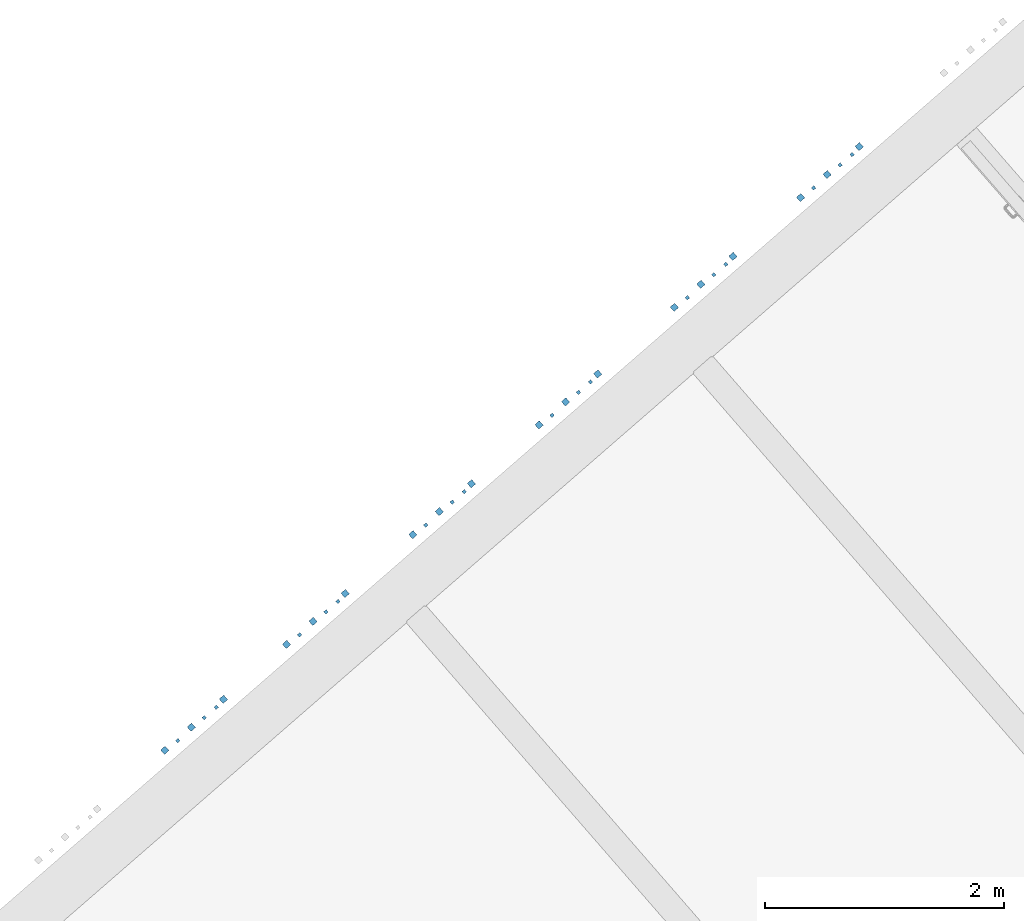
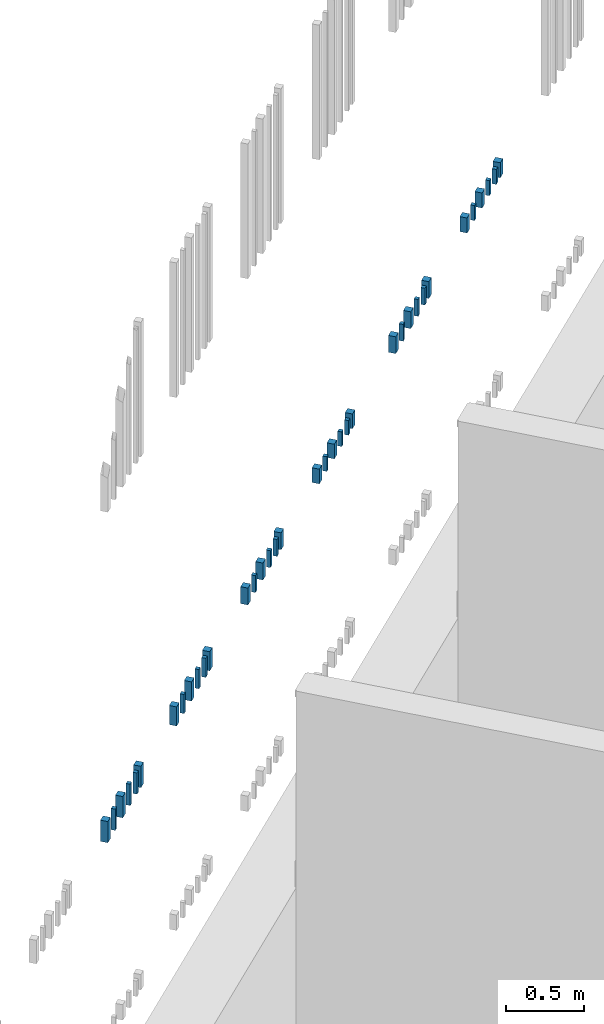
# One storey, part 95 of 124: 36 walls.
"""IFC2X3 building model written with IfcOpenShell, lengths in millimetres."""

from ifc_helpers import new_model, entity, si_unit, converted_unit, derived_unit, money_unit, direction, frame, origin_with_axes, place, context, subcontext, project, spatial, faceted_brep, material, type_object, element, save


model = new_model("IFC2X3")

# Units and contexts
model_context = context("Model", 3, precision=1e-05, world=origin_with_axes(), true_north=direction((0.0, 1.0)))
body_context = subcontext(model_context, "Body", "Model", "MODEL_VIEW")
ifc_project = project(units=[si_unit("LENGTHUNIT", "METRE", prefix="MILLI"), si_unit("AREAUNIT", "SQUARE_METRE"), si_unit("VOLUMEUNIT", "CUBIC_METRE"), converted_unit("PLANEANGLEUNIT", "DEGREE", entity("IfcPlaneAngleMeasure", 0.0174532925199), si_unit("PLANEANGLEUNIT", "RADIAN"), dimensions=[0, 0, 0, 0, 0, 0, 0]), si_unit("SOLIDANGLEUNIT", "STERADIAN"), money_unit("EUR"), converted_unit("TIMEUNIT", "Year", entity("IfcTimeMeasure", 31556926.0), si_unit("TIMEUNIT", "SECOND"), dimensions=[0, 0, 1, 0, 0, 0, 0]), si_unit("MASSUNIT", "GRAM", prefix="KILO"), si_unit("THERMODYNAMICTEMPERATUREUNIT", "DEGREE_CELSIUS"), si_unit("LUMINOUSINTENSITYUNIT", "LUMEN"), si_unit("ENERGYUNIT", "JOULE", prefix="MEGA"), derived_unit("THERMALCONDUCTANCEUNIT", [(si_unit("POWERUNIT", "WATT"), 1), (si_unit("LENGTHUNIT", "METRE"), -1), (si_unit("THERMODYNAMICTEMPERATUREUNIT", "KELVIN"), -1)]), derived_unit("SPECIFICHEATCAPACITYUNIT", [(si_unit("ENERGYUNIT", "JOULE"), 1), (si_unit("MASSUNIT", "GRAM", prefix="KILO"), -1), (si_unit("THERMODYNAMICTEMPERATUREUNIT", "KELVIN"), -1)]), derived_unit("MASSDENSITYUNIT", [(si_unit("MASSUNIT", "GRAM", prefix="KILO"), 1), (si_unit("VOLUMEUNIT", "CUBIC_METRE"), -1)])], contexts=[model_context])

# Site, building, storey
site_placement = place(None, origin_with_axes())
site = spatial("IfcSite", under=ifc_project, at=site_placement, Name="Site", CompositionType="ELEMENT")
building_placement = place(site_placement, origin_with_axes())
building = spatial("IfcBuilding", under=site, at=building_placement, Name="Building", CompositionType="ELEMENT")
storey_placement = place(building_placement, frame((0.0, 0.0, -1615.0), z_axis=(0.0, 0.0, 1.0), x_axis=(1.0, 0.0, 0.0)))
storey = spatial("IfcBuildingStorey", under=building, at=storey_placement, Name="0  korrus", CompositionType="ELEMENT", Elevation=-1615.0)

# Walls
ifc_material = material(Name="Site specified")
wall_type = type_object("IfcWallType", Name="Puitfassaadi ribistik", PredefinedType="NOTDEFINED")
for number, where, z_axis, x_axis, name in (
    (1, (146205.465437, 97130.887889, 3193.00824303), (0.0, 0.0, 1.0), (0.754709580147, 0.656059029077, 0.0), "Site specified"),
    (2, (145936.784575, 96897.3271788, 3193.00824303), (0.0, 0.0, 1.0), (0.754709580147, 0.656059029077, 0.0), "Site specified"),
):
    element("IfcWall", number, at=place(storey_placement, frame(where, z_axis=z_axis, x_axis=x_axis)), inside=storey, type_object=wall_type, material=ifc_material, Name=name, context=body_context, shape_type="Brep", body=[
        faceted_brep([(25.0, 25.0, 165.99175697), (25.0, 25.0, 0.0), (-25.0, 25.0, 0.0), (-25.0, 25.0, 165.99175697), (25.0, -25.0, 165.99175697), (25.0, -25.0, 0.0), (-25.0, -25.0, 0.0), (-25.0, -25.0, 165.99175697)], [[[0, 1, 2, 3]], [[4, 5, 1, 0]], [[2, 1, 5, 6]], [[3, 2, 6, 7]], [[4, 0, 3, 7]], [[7, 6, 5, 4]]]),
    ])
for number, where, z_axis, x_axis, name in (
    (3, (145824.004282, 96784.7136232, 3193.00824303), (0.0, 0.0, 1.0), (0.754709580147, 0.656059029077, 0.0), "Site specified"),
    (4, (146145.510541, 97064.19475, 3193.00824303), (0.0, 0.0, 1.0), (0.754709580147, 0.656059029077, 0.0), "Site specified"),
    (5, (146045.134168, 96976.9388997, 3193.00824303), (0.0, 0.0, 1.0), (0.754709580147, 0.656059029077, 0.0), "Site specified"),
):
    element("IfcWall", number, at=place(storey_placement, frame(where, z_axis=z_axis, x_axis=x_axis)), inside=storey, type_object=wall_type, material=ifc_material, Name=name, context=body_context, shape_type="Brep", body=[
        faceted_brep([(14.0, 14.0, 165.99175697), (14.0, 14.0, 0.0), (-14.0, 14.0, 0.0), (-14.0, 14.0, 165.99175697), (14.0, -14.0, 165.99175697), (14.0, -14.0, 0.0), (-14.0, -14.0, 0.0), (-14.0, -14.0, 165.99175697)], [[[0, 1, 2, 3]], [[4, 5, 1, 0]], [[2, 1, 5, 6]], [[3, 2, 6, 7]], [[4, 0, 3, 7]], [[7, 6, 5, 4]]]),
    ])
wall_1_placement = place(storey_placement, frame((145714.89996, 96704.4458257, 3193.00824303), z_axis=(0.0, 0.0, 1.0), x_axis=(0.754709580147, 0.656059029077, 0.0)))
element("IfcWall", 6, at=wall_1_placement, inside=storey, type_object=wall_type, material=ifc_material, Name="Site specified", context=body_context, shape_type="Brep", body=[
    faceted_brep([(25.0, 25.0, 165.99175697), (25.0, 25.0, 0.0), (-25.0, 25.0, 0.0), (-25.0, 25.0, 165.99175697), (25.0, -25.0, 165.99175697), (25.0, -25.0, 0.0), (-25.0, -25.0, 0.0), (-25.0, -25.0, 165.99175697)], [[[0, 1, 2, 3]], [[4, 5, 1, 0]], [[2, 1, 5, 6]], [[3, 2, 6, 7]], [[4, 0, 3, 7]], [[7, 6, 5, 4]]]),
])
for number, where, z_axis, x_axis, name in (
    (7, (146733.75789, 97590.1255125, 3209.74463524), (0.0, 0.0, 1.0), (0.754709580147, 0.656059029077, 0.0), "Site specified"),
    (8, (146955.642505, 97783.0068656, 3209.74463524), (0.0, 0.0, 1.0), (0.754709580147, 0.656059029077, 0.0), "Site specified"),
):
    element("IfcWall", number, at=place(storey_placement, frame(where, z_axis=z_axis, x_axis=x_axis)), inside=storey, type_object=wall_type, material=ifc_material, Name=name, context=body_context, shape_type="Brep", body=[
        faceted_brep([(25.0, 25.0, 149.255364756), (25.0, 25.0, 0.0), (-25.0, 25.0, 0.0), (-25.0, 25.0, 149.255364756), (25.0, -25.0, 149.255364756), (25.0, -25.0, 0.0), (-25.0, -25.0, 0.0), (-25.0, -25.0, 149.255364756)], [[[0, 1, 2, 3]], [[4, 5, 1, 0]], [[2, 1, 5, 6]], [[3, 2, 6, 7]], [[4, 0, 3, 7]], [[7, 6, 5, 4]]]),
    ])
for number, where, z_axis, x_axis, name in (
    (9, (146842.862213, 97670.3933099, 3209.74463524), (0.0, 0.0, 1.0), (0.754709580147, 0.656059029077, 0.0), "Site specified"),
    (10, (147164.368471, 97949.8744368, 3209.74463524), (0.0, 0.0, 1.0), (0.754709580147, 0.656059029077, 0.0), "Site specified"),
    (11, (147063.992098, 97862.6185865, 3209.74463524), (0.0, 0.0, 1.0), (0.754709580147, 0.656059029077, 0.0), "Site specified"),
):
    element("IfcWall", number, at=place(storey_placement, frame(where, z_axis=z_axis, x_axis=x_axis)), inside=storey, type_object=wall_type, material=ifc_material, Name=name, context=body_context, shape_type="Brep", body=[
        faceted_brep([(14.0, 14.0, 149.255364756), (14.0, 14.0, 0.0), (-14.0, 14.0, 0.0), (-14.0, 14.0, 149.255364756), (14.0, -14.0, 149.255364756), (14.0, -14.0, 0.0), (-14.0, -14.0, 0.0), (-14.0, -14.0, 149.255364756)], [[[0, 1, 2, 3]], [[4, 5, 1, 0]], [[2, 1, 5, 6]], [[3, 2, 6, 7]], [[4, 0, 3, 7]], [[7, 6, 5, 4]]]),
    ])
wall_2_placement = place(storey_placement, frame((147224.323367, 98016.5675757, 3209.74463524), z_axis=(0.0, 0.0, 1.0), x_axis=(0.754709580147, 0.656059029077, 0.0)))
element("IfcWall", 12, at=wall_2_placement, inside=storey, type_object=wall_type, material=ifc_material, Name="Site specified", context=body_context, shape_type="Brep", body=[
    faceted_brep([(25.0, 25.0, 149.255364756), (25.0, 25.0, 0.0), (-25.0, 25.0, 0.0), (-25.0, 25.0, 149.255364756), (25.0, -25.0, 149.255364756), (25.0, -25.0, 0.0), (-25.0, -25.0, 0.0), (-25.0, -25.0, 149.255364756)], [[[0, 1, 2, 3]], [[4, 5, 1, 0]], [[2, 1, 5, 6]], [[3, 2, 6, 7]], [[4, 0, 3, 7]], [[7, 6, 5, 4]]]),
])
wall_3_placement = place(storey_placement, frame((147790.351199, 98508.6080632, 3227.23633613), z_axis=(0.0, 0.0, 1.0), x_axis=(0.754709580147, 0.656059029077, 0.0)))
element("IfcWall", 13, at=wall_3_placement, inside=storey, type_object=wall_type, material=ifc_material, Name="Site specified", context=body_context, shape_type="Brep", body=[
    faceted_brep([(25.0, 25.0, 131.763663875), (25.0, 25.0, 0.0), (-25.0, 25.0, 0.0), (-25.0, 25.0, 131.763663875), (25.0, -25.0, 131.763663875), (25.0, -25.0, 0.0), (-25.0, -25.0, 0.0), (-25.0, -25.0, 131.763663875)], [[[0, 1, 2, 3]], [[4, 5, 1, 0]], [[2, 1, 5, 6]], [[3, 2, 6, 7]], [[4, 0, 3, 7]], [[7, 6, 5, 4]]]),
])
for number, where, z_axis, x_axis, name in (
    (14, (147899.455521, 98588.8758606, 3227.23633613), (0.0, 0.0, 1.0), (0.754709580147, 0.656059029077, 0.0), "Site specified"),
    (15, (148220.96178, 98868.3569875, 3227.23633613), (0.0, 0.0, 1.0), (0.754709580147, 0.656059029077, 0.0), "Site specified"),
    (16, (148120.585406, 98781.1011372, 3227.23633613), (0.0, 0.0, 1.0), (0.754709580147, 0.656059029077, 0.0), "Site specified"),
):
    element("IfcWall", number, at=place(storey_placement, frame(where, z_axis=z_axis, x_axis=x_axis)), inside=storey, type_object=wall_type, material=ifc_material, Name=name, context=body_context, shape_type="Brep", body=[
        faceted_brep([(14.0, 14.0, 131.763663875), (14.0, 14.0, 0.0), (-14.0, 14.0, 0.0), (-14.0, 14.0, 131.763663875), (14.0, -14.0, 131.763663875), (14.0, -14.0, 0.0), (-14.0, -14.0, 0.0), (-14.0, -14.0, 131.763663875)], [[[0, 1, 2, 3]], [[4, 5, 1, 0]], [[2, 1, 5, 6]], [[3, 2, 6, 7]], [[4, 0, 3, 7]], [[7, 6, 5, 4]]]),
    ])
for number, where, z_axis, x_axis, name in (
    (17, (148280.916676, 98935.0501264, 3227.23633613), (0.0, 0.0, 1.0), (0.754709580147, 0.656059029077, 0.0), "Site specified"),
    (18, (148012.235814, 98701.4894163, 3227.23633613), (0.0, 0.0, 1.0), (0.754709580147, 0.656059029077, 0.0), "Site specified"),
):
    element("IfcWall", number, at=place(storey_placement, frame(where, z_axis=z_axis, x_axis=x_axis)), inside=storey, type_object=wall_type, material=ifc_material, Name=name, context=body_context, shape_type="Brep", body=[
        faceted_brep([(25.0, 25.0, 131.763663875), (25.0, 25.0, 0.0), (-25.0, 25.0, 0.0), (-25.0, 25.0, 131.763663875), (25.0, -25.0, 131.763663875), (25.0, -25.0, 0.0), (-25.0, -25.0, 0.0), (-25.0, -25.0, 131.763663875)], [[[0, 1, 2, 3]], [[4, 5, 1, 0]], [[2, 1, 5, 6]], [[3, 2, 6, 7]], [[4, 0, 3, 7]], [[7, 6, 5, 4]]]),
    ])
wall_4_placement = place(storey_placement, frame((149337.510192, 99853.5328571, 3244.87279014), z_axis=(0.0, 0.0, 1.0), x_axis=(0.754709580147, 0.656059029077, 0.0)))
element("IfcWall", 19, at=wall_4_placement, inside=storey, type_object=wall_type, material=ifc_material, Name="Site specified", context=body_context, shape_type="Brep", body=[
    faceted_brep([(25.0, 25.0, 114.127209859), (25.0, 25.0, 0.0), (-25.0, 25.0, 0.0), (-25.0, 25.0, 114.127209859), (25.0, -25.0, 114.127209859), (25.0, -25.0, 0.0), (-25.0, -25.0, 0.0), (-25.0, -25.0, 114.127209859)], [[[0, 1, 2, 3]], [[4, 5, 1, 0]], [[2, 1, 5, 6]], [[3, 2, 6, 7]], [[4, 0, 3, 7]], [[7, 6, 5, 4]]]),
])
for number, where, z_axis, x_axis, name in (
    (20, (149177.178922, 99699.5838678, 3244.87279014), (0.0, 0.0, 1.0), (0.754709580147, 0.656059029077, 0.0), "Site specified"),
    (21, (149277.555296, 99786.8397181, 3244.87279014), (0.0, 0.0, 1.0), (0.754709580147, 0.656059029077, 0.0), "Site specified"),
    (22, (148956.049037, 99507.3585913, 3244.87279014), (0.0, 0.0, 1.0), (0.754709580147, 0.656059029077, 0.0), "Site specified"),
):
    element("IfcWall", number, at=place(storey_placement, frame(where, z_axis=z_axis, x_axis=x_axis)), inside=storey, type_object=wall_type, material=ifc_material, Name=name, context=body_context, shape_type="Brep", body=[
        faceted_brep([(14.0, 14.0, 114.127209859), (14.0, 14.0, 0.0), (-14.0, 14.0, 0.0), (-14.0, 14.0, 114.127209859), (14.0, -14.0, 114.127209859), (14.0, -14.0, 0.0), (-14.0, -14.0, 0.0), (-14.0, -14.0, 114.127209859)], [[[0, 1, 2, 3]], [[4, 5, 1, 0]], [[2, 1, 5, 6]], [[3, 2, 6, 7]], [[4, 0, 3, 7]], [[7, 6, 5, 4]]]),
    ])
for number, where, z_axis, x_axis, name in (
    (23, (148846.944715, 99427.0907938, 3244.87279014), (0.0, 0.0, 1.0), (0.754709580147, 0.656059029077, 0.0), "Site specified"),
    (24, (149068.82933, 99619.9721469, 3244.87279014), (0.0, 0.0, 1.0), (0.754709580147, 0.656059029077, 0.0), "Site specified"),
):
    element("IfcWall", number, at=place(storey_placement, frame(where, z_axis=z_axis, x_axis=x_axis)), inside=storey, type_object=wall_type, material=ifc_material, Name=name, context=body_context, shape_type="Brep", body=[
        faceted_brep([(25.0, 25.0, 114.127209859), (25.0, 25.0, 0.0), (-25.0, 25.0, 0.0), (-25.0, 25.0, 114.127209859), (25.0, -25.0, 114.127209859), (25.0, -25.0, 0.0), (-25.0, -25.0, 0.0), (-25.0, -25.0, 114.127209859)], [[[0, 1, 2, 3]], [[4, 5, 1, 0]], [[2, 1, 5, 6]], [[3, 2, 6, 7]], [[4, 0, 3, 7]], [[7, 6, 5, 4]]]),
    ])
for number, where, z_axis, x_axis, name in (
    (25, (150200.8937, 100604.060691, 3267.02249125), (0.0, 0.0, 1.0), (0.754709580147, 0.656059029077, 0.0), "Site specified"),
    (26, (150469.574562, 100837.621401, 3267.02249125), (0.0, 0.0, 1.0), (0.754709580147, 0.656059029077, 0.0), "Site specified"),
):
    element("IfcWall", number, at=place(storey_placement, frame(where, z_axis=z_axis, x_axis=x_axis)), inside=storey, type_object=wall_type, material=ifc_material, Name=name, context=body_context, shape_type="Brep", body=[
        faceted_brep([(25.0, 25.0, 131.141562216), (25.0, 25.0, 0.0), (-25.0, 25.0, 0.0), (-25.0, 25.0, 131.141562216), (25.0, -25.0, 131.141562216), (25.0, -25.0, 0.0), (-25.0, -25.0, 0.0), (-25.0, -25.0, 131.141562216)], [[[0, 1, 2, 3]], [[4, 5, 1, 0]], [[2, 1, 5, 6]], [[3, 2, 6, 7]], [[4, 0, 3, 7]], [[7, 6, 5, 4]]]),
    ])
for number, where, z_axis, x_axis, name in (
    (27, (150309.243292, 100683.672412, 3267.02249125), (0.0, 0.0, 1.0), (0.754709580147, 0.656059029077, 0.0), "Site specified"),
    (28, (150088.113407, 100491.447135, 3267.02249125), (0.0, 0.0, 1.0), (0.754709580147, 0.656059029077, 0.0), "Site specified"),
):
    element("IfcWall", number, at=place(storey_placement, frame(where, z_axis=z_axis, x_axis=x_axis)), inside=storey, type_object=wall_type, material=ifc_material, Name=name, context=body_context, shape_type="Brep", body=[
        faceted_brep([(14.0, 14.0, 131.141562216), (14.0, 14.0, 0.0), (-14.0, 14.0, 0.0), (-14.0, 14.0, 131.141562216), (14.0, -14.0, 131.141562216), (14.0, -14.0, 0.0), (-14.0, -14.0, 0.0), (-14.0, -14.0, 131.141562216)], [[[0, 1, 2, 3]], [[4, 5, 1, 0]], [[2, 1, 5, 6]], [[3, 2, 6, 7]], [[4, 0, 3, 7]], [[7, 6, 5, 4]]]),
    ])
wall_5_placement = place(storey_placement, frame((149979.009085, 100411.179338, 3267.02249125), z_axis=(0.0, 0.0, 1.0), x_axis=(0.754709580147, 0.656059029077, 0.0)))
element("IfcWall", 29, at=wall_5_placement, inside=storey, type_object=wall_type, material=ifc_material, Name="Site specified", context=body_context, shape_type="Brep", body=[
    faceted_brep([(25.0, 25.0, 131.141562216), (25.0, 25.0, 0.0), (-25.0, 25.0, 0.0), (-25.0, 25.0, 131.141562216), (25.0, -25.0, 131.141562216), (25.0, -25.0, 0.0), (-25.0, -25.0, 0.0), (-25.0, -25.0, 131.141562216)], [[[0, 1, 2, 3]], [[4, 5, 1, 0]], [[2, 1, 5, 6]], [[3, 2, 6, 7]], [[4, 0, 3, 7]], [[7, 6, 5, 4]]]),
])
wall_6_placement = place(storey_placement, frame((150409.619666, 100770.928262, 3267.02249125), z_axis=(0.0, 0.0, 1.0), x_axis=(0.754709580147, 0.656059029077, 0.0)))
element("IfcWall", 30, at=wall_6_placement, inside=storey, type_object=wall_type, material=ifc_material, Name="Site specified", context=body_context, shape_type="Brep", body=[
    faceted_brep([(14.0, 14.0, 131.141562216), (14.0, 14.0, 0.0), (-14.0, 14.0, 0.0), (-14.0, 14.0, 131.141562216), (14.0, -14.0, 131.141562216), (14.0, -14.0, 0.0), (-14.0, -14.0, 0.0), (-14.0, -14.0, 131.141562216)], [[[0, 1, 2, 3]], [[4, 5, 1, 0]], [[2, 1, 5, 6]], [[3, 2, 6, 7]], [[4, 0, 3, 7]], [[7, 6, 5, 4]]]),
])
for number, where, z_axis, x_axis, name in (
    (31, (151257.487356, 101522.543543, 3280.83250694), (0.0, 0.0, 1.0), (0.754709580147, 0.656059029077, 0.0), "Site specified"),
    (32, (151526.168218, 101756.104253, 3280.83250694), (0.0, 0.0, 1.0), (0.754709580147, 0.656059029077, 0.0), "Site specified"),
):
    element("IfcWall", number, at=place(storey_placement, frame(where, z_axis=z_axis, x_axis=x_axis)), inside=storey, type_object=wall_type, material=ifc_material, Name=name, context=body_context, shape_type="Brep", body=[
        faceted_brep([(25.0, 25.0, 117.331546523), (25.0, 25.0, 0.0), (-25.0, 25.0, 0.0), (-25.0, 25.0, 117.331546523), (25.0, -25.0, 117.331546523), (25.0, -25.0, 0.0), (-25.0, -25.0, 0.0), (-25.0, -25.0, 117.331546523)], [[[0, 1, 2, 3]], [[4, 5, 1, 0]], [[2, 1, 5, 6]], [[3, 2, 6, 7]], [[4, 0, 3, 7]], [[7, 6, 5, 4]]]),
    ])
for number, where, z_axis, x_axis, name in (
    (33, (151365.836948, 101602.155264, 3280.83250694), (0.0, 0.0, 1.0), (0.754709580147, 0.656059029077, 0.0), "Site specified"),
    (34, (151466.213322, 101689.411114, 3280.83250694), (0.0, 0.0, 1.0), (0.754709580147, 0.656059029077, 0.0), "Site specified"),
    (35, (151144.707063, 101409.929987, 3280.83250694), (0.0, 0.0, 1.0), (0.754709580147, 0.656059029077, 0.0), "Site specified"),
):
    element("IfcWall", number, at=place(storey_placement, frame(where, z_axis=z_axis, x_axis=x_axis)), inside=storey, type_object=wall_type, material=ifc_material, Name=name, context=body_context, shape_type="Brep", body=[
        faceted_brep([(14.0, 14.0, 117.331546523), (14.0, 14.0, 0.0), (-14.0, 14.0, 0.0), (-14.0, 14.0, 117.331546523), (14.0, -14.0, 117.331546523), (14.0, -14.0, 0.0), (-14.0, -14.0, 0.0), (-14.0, -14.0, 117.331546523)], [[[0, 1, 2, 3]], [[4, 5, 1, 0]], [[2, 1, 5, 6]], [[3, 2, 6, 7]], [[4, 0, 3, 7]], [[7, 6, 5, 4]]]),
    ])
wall_7_placement = place(storey_placement, frame((151035.602741, 101329.66219, 3280.83250694), z_axis=(0.0, 0.0, 1.0), x_axis=(0.754709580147, 0.656059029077, 0.0)))
element("IfcWall", 36, at=wall_7_placement, inside=storey, type_object=wall_type, material=ifc_material, Name="Site specified", context=body_context, shape_type="Brep", body=[
    faceted_brep([(25.0, 25.0, 117.331546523), (25.0, 25.0, 0.0), (-25.0, 25.0, 0.0), (-25.0, 25.0, 117.331546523), (25.0, -25.0, 117.331546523), (25.0, -25.0, 0.0), (-25.0, -25.0, 0.0), (-25.0, -25.0, 117.331546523)], [[[0, 1, 2, 3]], [[4, 5, 1, 0]], [[2, 1, 5, 6]], [[3, 2, 6, 7]], [[4, 0, 3, 7]], [[7, 6, 5, 4]]]),
])

save(model, "model.ifc")
